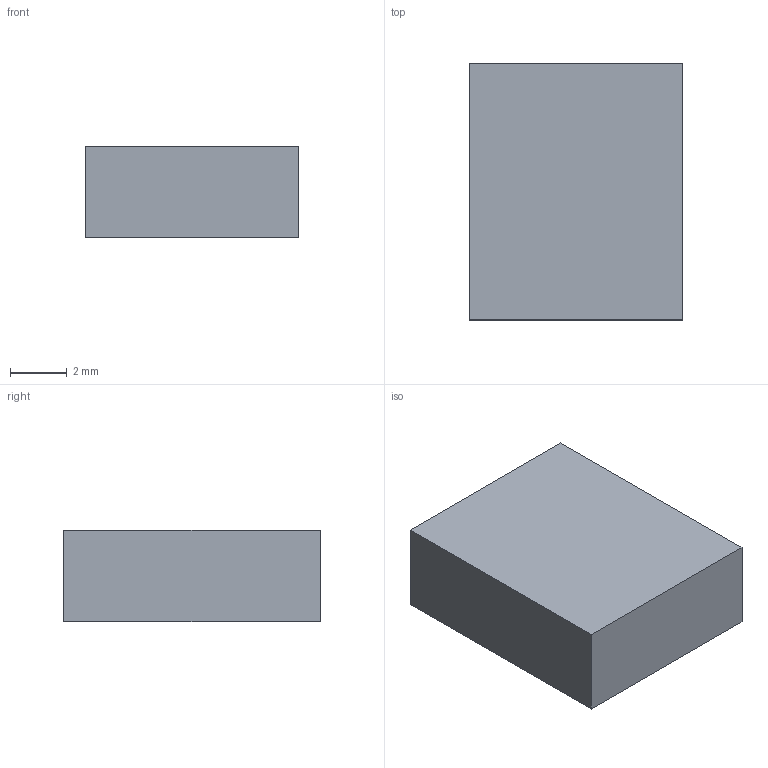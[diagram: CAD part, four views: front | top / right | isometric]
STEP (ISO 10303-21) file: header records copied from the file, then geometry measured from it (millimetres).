
FILE_DESCRIPTION(('Open CASCADE Model'),'2;1');
FILE_NAME('Open CASCADE Shape Model','2026-09-29T12:48:02',('Author'),( 'Open CASCADE'),'Open CASCADE STEP processor 7.9','Open CASCADE 7.9' ,'Unknown');
FILE_SCHEMA(('AUTOMOTIVE_DESIGN { 1 0 10303 214 1 1 1 1 }'));
Length unit declared in the file: millimetre
Products named in the file (1): Open CASCADE STEP translator 7.9 12
Bounding box: 7.5 x 9 x 3.2 mm (x, y, z)
Volume: 216 mm3; surface area: 240.6 mm2
Topology: 1 solids, 1 shells, 6 faces, 12 edges, 8 vertices
Faces by surface type: plane 6
Entity records: 322 total; most frequent: CARTESIAN_POINT 51, DIRECTION 50, LINE 36, VECTOR 36, ORIENTED_EDGE 24, PCURVE 24, DEFINITIONAL_REPRESENTATION 24, EDGE_CURVE 12
